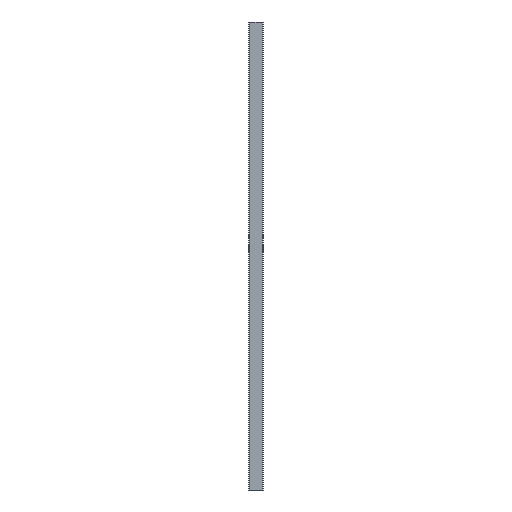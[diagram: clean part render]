
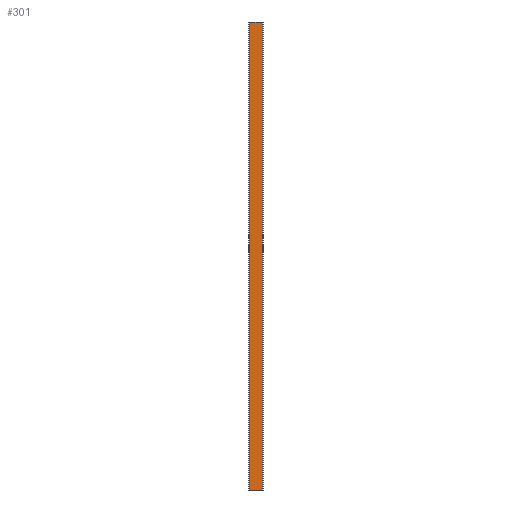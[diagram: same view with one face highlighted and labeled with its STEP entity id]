
A CAD part, left-side view. The second image highlights one B-rep face of the part: STEP entity #301.
In plain terms, the highlighted planar face has unit normal (-1, 0, 0).
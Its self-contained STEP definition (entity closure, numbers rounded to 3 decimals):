
#294 = FACE_OUTER_BOUND ( 'NONE', #8316, .T. ) ;
#301 = ADVANCED_FACE ( 'NONE', ( #294 ), #3515, .T. ) ;
#321 = CARTESIAN_POINT ( 'NONE',  ( -15., -13.5, -1000. ) ) ;
#889 = ORIENTED_EDGE ( 'NONE', *, *, #11765, .F. ) ;
#1005 = ORIENTED_EDGE ( 'NONE', *, *, #3297, .T. ) ;
#1123 = VERTEX_POINT ( 'NONE', #8000 ) ;
#1705 = LINE ( 'NONE', #10005, #11632 ) ;
#1932 = EDGE_CURVE ( 'NONE', #2296, #1123, #4302, .T. ) ;
#2036 = DIRECTION ( 'NONE',  ( 0., 0., 1. ) ) ;
#2296 = VERTEX_POINT ( 'NONE', #11005 ) ;
#2838 = CARTESIAN_POINT ( 'NONE',  ( -15., 13.5, 0. ) ) ;
#3297 = EDGE_CURVE ( 'NONE', #2296, #6528, #1705, .T. ) ;
#3436 = ORIENTED_EDGE ( 'NONE', *, *, #1932, .F. ) ;
#3515 = PLANE ( 'NONE',  #7732 ) ;
#3524 = DIRECTION ( 'NONE',  ( 0., -1., 0. ) ) ;
#4302 = LINE ( 'NONE', #7807, #9132 ) ;
#4487 = DIRECTION ( 'NONE',  ( -1., 0., 0. ) ) ;
#6528 = VERTEX_POINT ( 'NONE', #10745 ) ;
#6690 = LINE ( 'NONE', #321, #8966 ) ;
#7353 = CARTESIAN_POINT ( 'NONE',  ( -15., 13.5, -1000. ) ) ;
#7732 = AXIS2_PLACEMENT_3D ( 'NONE', #7353, #4487, #11208 ) ;
#7807 = CARTESIAN_POINT ( 'NONE',  ( -15., 13.5, -1000. ) ) ;
#8000 = CARTESIAN_POINT ( 'NONE',  ( -15., 13.5, 0. ) ) ;
#8316 = EDGE_LOOP ( 'NONE', ( #889, #3436, #1005, #9728 ) ) ;
#8834 = CARTESIAN_POINT ( 'NONE',  ( -15., -13.5, 0. ) ) ;
#8966 = VECTOR ( 'NONE', #9004, 1000. ) ;
#9004 = DIRECTION ( 'NONE',  ( 0., 0., 1. ) ) ;
#9126 = VERTEX_POINT ( 'NONE', #8834 ) ;
#9132 = VECTOR ( 'NONE', #2036, 1000. ) ;
#9229 = EDGE_CURVE ( 'NONE', #6528, #9126, #6690, .T. ) ;
#9395 = VECTOR ( 'NONE', #10540, 1000. ) ;
#9728 = ORIENTED_EDGE ( 'NONE', *, *, #9229, .T. ) ;
#10005 = CARTESIAN_POINT ( 'NONE',  ( -15., 13.5, -1000. ) ) ;
#10540 = DIRECTION ( 'NONE',  ( 0., -1., 0. ) ) ;
#10745 = CARTESIAN_POINT ( 'NONE',  ( -15., -13.5, -1000. ) ) ;
#11005 = CARTESIAN_POINT ( 'NONE',  ( -15., 13.5, -1000. ) ) ;
#11208 = DIRECTION ( 'NONE',  ( 0., 0., 1. ) ) ;
#11632 = VECTOR ( 'NONE', #3524, 1000. ) ;
#11765 = EDGE_CURVE ( 'NONE', #1123, #9126, #12219, .T. ) ;
#12219 = LINE ( 'NONE', #2838, #9395 ) ;
